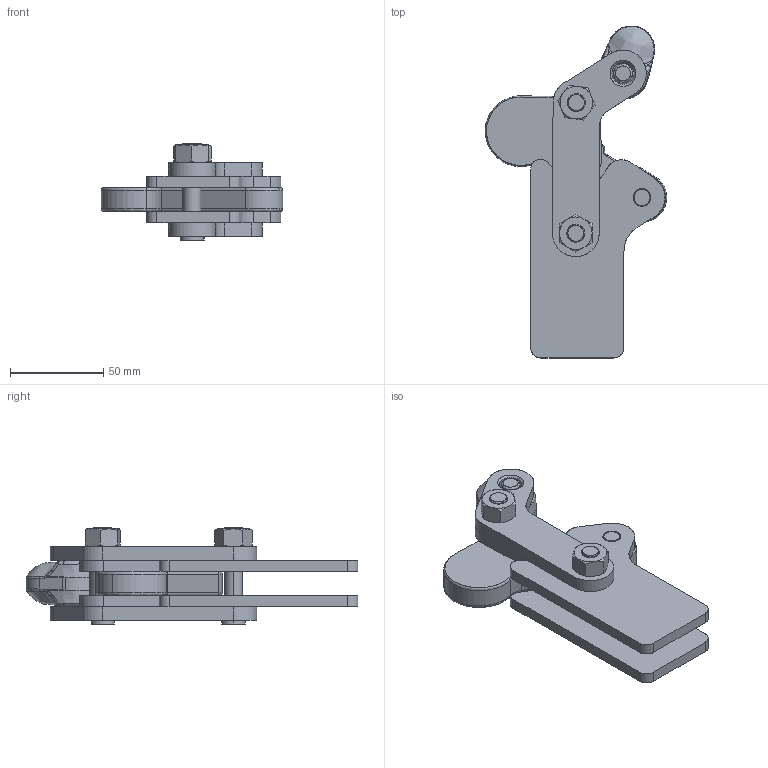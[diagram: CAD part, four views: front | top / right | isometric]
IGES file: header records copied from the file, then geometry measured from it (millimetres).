
Start section: SolidWorks IGES file using analytic representation for surfaces
Global section: file name: D:\GH Files\GH-SW-FILES\GH7\702D,701D\701D.IGS; native system: SolidWorks 2007; preprocessor: SolidWorks 2007; author: Administrator; date: 061025.163948; units: millimetre
Bounding box: 97.29 x 177.93 x 52.5 mm (x, y, z)
Surface area: 74812.2 mm2 (no closed solid volume)
Topology: 0 solids, 0 shells, 1418 faces, 10688 edges, 10688 vertices
Faces by surface type: bspline 830, revolution 588
